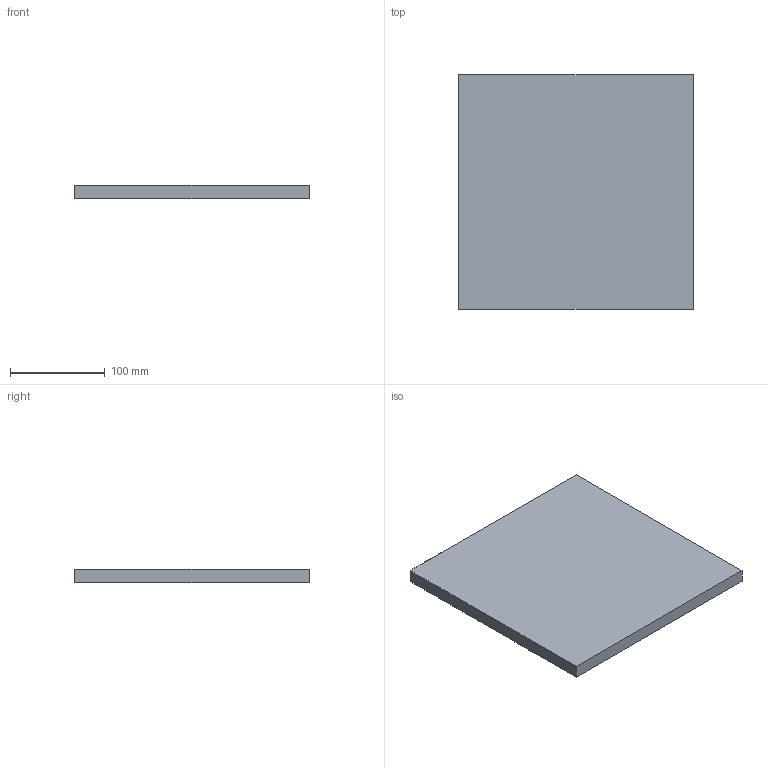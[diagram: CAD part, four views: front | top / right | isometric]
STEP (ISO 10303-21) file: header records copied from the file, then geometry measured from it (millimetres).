
FILE_DESCRIPTION(/* description */ (''),/* implementation_level */ '2;1');
FILE_NAME(/* name */ 'F03_SQ~1',/* time_stamp */ '2022-11-14T21:02:50+01:00',/* author */ (''),/* organization */ (''),/* preprocessor_version */ 'ST-DEVELOPER v15',/* originating_system */ '',/* authorisation */ '');
FILE_SCHEMA (('AUTOMOTIVE_DESIGN'));
Length unit declared in the file: millimetre
Products named in the file (1): Document
Bounding box: 248 x 248 x 14 mm (x, y, z)
Volume: 861056 mm3; surface area: 136896 mm2
Topology: 1 solids, 1 shells, 6 faces, 12 edges, 8 vertices
Faces by surface type: plane 6
Entity records: 157 total; most frequent: CARTESIAN_POINT 40, ORIENTED_EDGE 24, EDGE_CURVE 12, B_SPLINE_CURVE_WITH_KNOTS 12, DIRECTION 10, VERTEX_POINT 8, AXIS2_PLACEMENT_3D 8, ADVANCED_FACE 6
